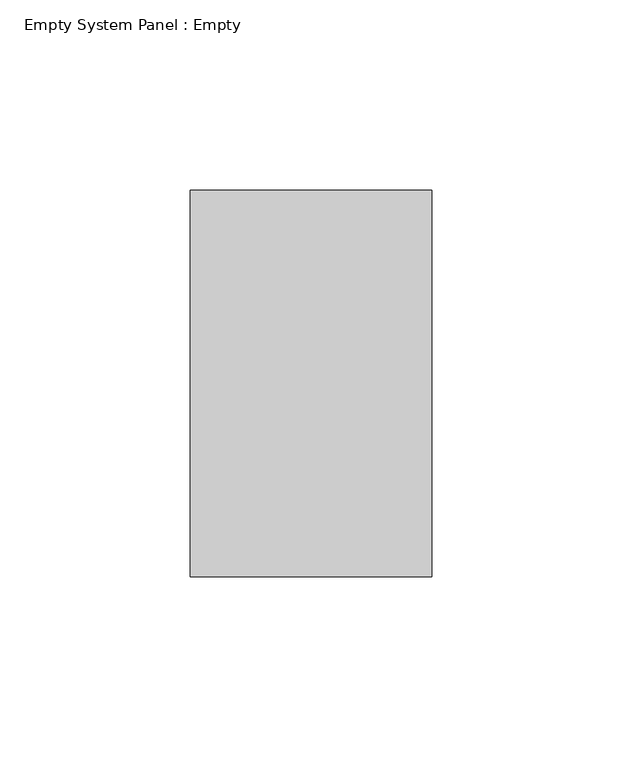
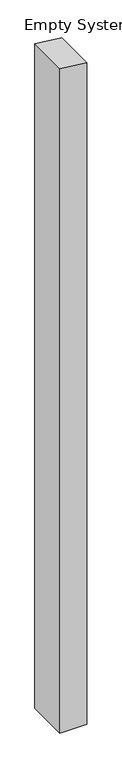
"""IFC4 building model written with IfcOpenShell, lengths in millimetres: plate geometry, Empty System Panel : Empty."""

from ifc_helpers import new_model, si_unit, frame, origin, place, context, project, spatial, polyline, outline, extrude, source, transform, mapped, element, save


def empty_system_panel_empty_9ae41cb9(model_context):
    return source(origin(), model_context, "Body", "SweptSolid", [
        extrude(outline(polyline([(0.0, -31.75), (0.0, 31.75), (1641.9115055, 31.75), (1649.0138646, -31.75), (0.0, -31.75)])), frame((0.0, -50.8, 0.0), z_axis=(0.0, 1.0, 0.0), x_axis=(0.0, 0.0, 1.0)), (0.0, 0.0, 1.0), 101.6),
    ])


if __name__ == "__main__":
    model = new_model("IFC4")
    model_context = context("Model", 3, world=origin())
    ifc_project = project(units=[si_unit("LENGTHUNIT", "METRE", prefix="MILLI")], contexts=[model_context])
    site = spatial("IfcSite", under=ifc_project)
    building = spatial("IfcBuilding", under=site)
    placement = place(None, origin())
    empty_system_panel_empty_shape = empty_system_panel_empty_9ae41cb9(model_context)
    element("IfcPlate", 1, ObjectType="Empty System Panel : Empty", at=placement, inside=building, context=model_context, shape_type="MappedRepresentation", body=[
        mapped(empty_system_panel_empty_shape, transform((0.0, 0.0, 0.0), x_axis=(1.0, 0.0, 0.0), y_axis=(0.0, 1.0, 0.0), z_axis=(0.0, 0.0, 1.0))),
    ])
    save(model, "model.ifc")
